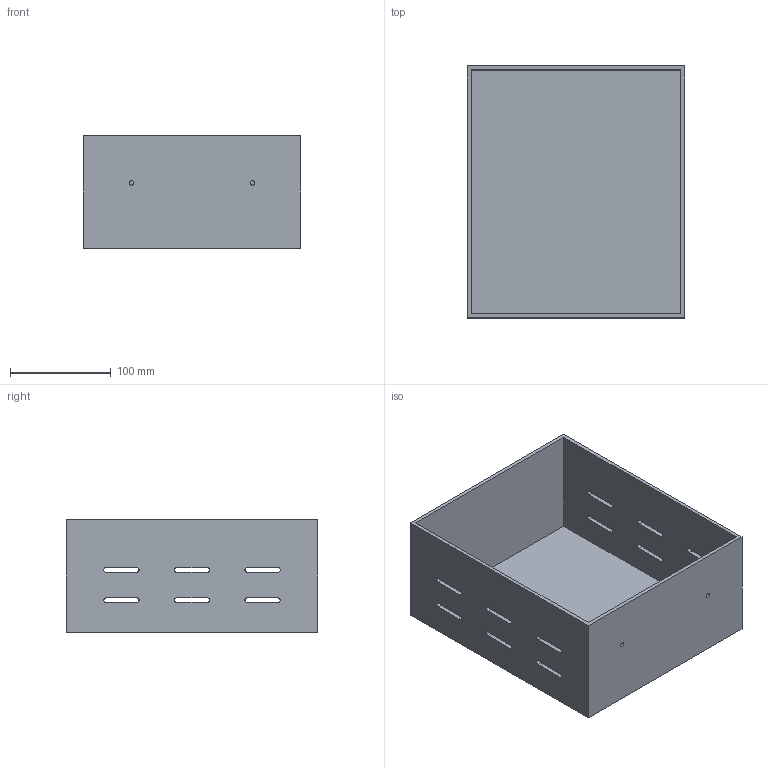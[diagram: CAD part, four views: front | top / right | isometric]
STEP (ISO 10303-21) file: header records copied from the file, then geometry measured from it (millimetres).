
FILE_DESCRIPTION(('Open CASCADE Model'),'2;1');
FILE_NAME('Open CASCADE Shape Model','2026-10-21T16:53:52',('Author'),( 'Open CASCADE'),'Open CASCADE STEP processor 7.9','Open CASCADE 7.9' ,'Unknown');
FILE_SCHEMA(('AUTOMOTIVE_DESIGN { 1 0 10303 214 1 1 1 1 }'));
Length unit declared in the file: millimetre
Products named in the file (1): Open CASCADE STEP translator 7.9 19
Bounding box: 216 x 250 x 112 mm (x, y, z)
Volume: 604233.4 mm3; surface area: 309564.4 mm2
Topology: 1 solids, 1 shells, 61 faces, 174 edges, 116 vertices
Faces by surface type: plane 35, cylinder 26
Full cylindrical faces by diameter (mm): 4.5 x2
Entity records: 4472 total; most frequent: CARTESIAN_POINT 988, DIRECTION 650, LINE 418, VECTOR 418, ORIENTED_EDGE 348, PCURVE 348, DEFINITIONAL_REPRESENTATION 348, EDGE_CURVE 174
